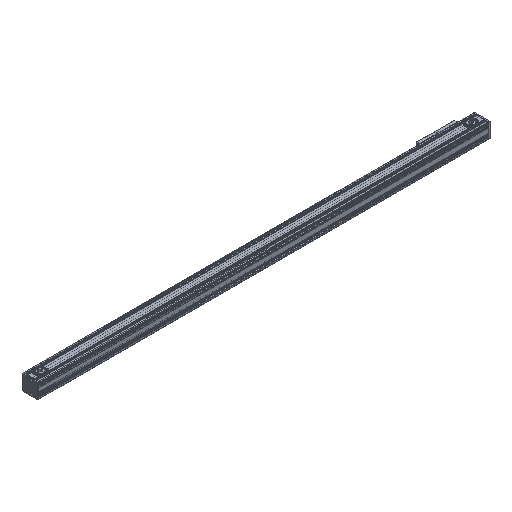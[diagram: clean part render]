
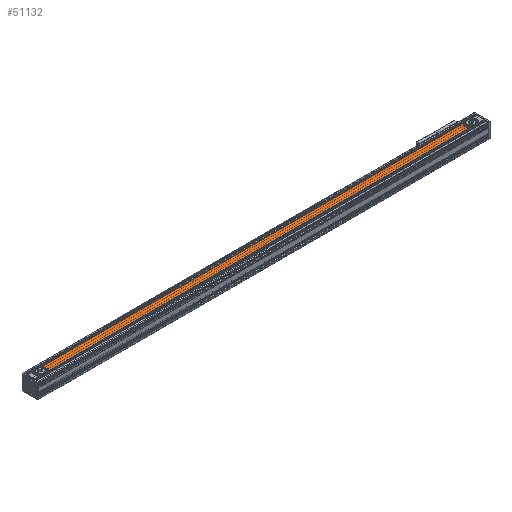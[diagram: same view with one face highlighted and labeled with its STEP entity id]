
A CAD part, isometric view. The second image highlights one B-rep face of the part: STEP entity #51132.
In plain terms, the highlighted planar face has unit normal (0, 0, 1).
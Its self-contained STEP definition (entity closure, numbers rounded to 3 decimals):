
#3859 = DIRECTION ( 'NONE',  ( 0., 0., -1. ) ) ;
#5148 = CARTESIAN_POINT ( 'NONE',  ( -114.672, 83.121, 83.366 ) ) ;
#15157 = ORIENTED_EDGE ( 'NONE', *, *, #76417, .F. ) ;
#16247 = CARTESIAN_POINT ( 'NONE',  ( -164.672, 62.821, 83.366 ) ) ;
#20505 = DIRECTION ( 'NONE',  ( 0., 0., 1. ) ) ;
#22477 = DIRECTION ( 'NONE',  ( 1., 0., 0. ) ) ;
#25986 = PLANE ( 'NONE',  #54222 ) ;
#29866 = EDGE_CURVE ( 'NONE', #112967, #106469, #99908, .T. ) ;
#33731 = EDGE_LOOP ( 'NONE', ( #129218, #15157, #85415, #81869 ) ) ;
#34601 = CARTESIAN_POINT ( 'NONE',  ( -164.672, 119.121, 83.366 ) ) ;
#44986 = EDGE_CURVE ( 'NONE', #106469, #56898, #115885, .T. ) ;
#45282 = LINE ( 'NONE', #77576, #89924 ) ;
#51132 = ADVANCED_FACE ( 'NONE', ( #95265 ), #25986, .T. ) ;
#54222 = AXIS2_PLACEMENT_3D ( 'NONE', #34601, #95957, #105210 ) ;
#56898 = VERTEX_POINT ( 'NONE', #98434 ) ;
#57128 = DIRECTION ( 'NONE',  ( -1., 0., 0. ) ) ;
#63738 = DIRECTION ( 'NONE',  ( -1., 0., 0. ) ) ;
#67179 = VECTOR ( 'NONE', #126424, 1000. ) ;
#76417 = EDGE_CURVE ( 'NONE', #92810, #56898, #115435, .T. ) ;
#77576 = CARTESIAN_POINT ( 'NONE',  ( -164.672, 103.421, 83.366 ) ) ;
#81869 = ORIENTED_EDGE ( 'NONE', *, *, #29866, .T. ) ;
#85415 = ORIENTED_EDGE ( 'NONE', *, *, #124969, .T. ) ;
#88427 = CARTESIAN_POINT ( 'NONE',  ( -91.244, 62.821, 83.366 ) ) ;
#89924 = VECTOR ( 'NONE', #57128, 1000. ) ;
#90296 = CARTESIAN_POINT ( 'NONE',  ( -91.244, 103.421, 83.366 ) ) ;
#92810 = VERTEX_POINT ( 'NONE', #103121 ) ;
#95265 = FACE_OUTER_BOUND ( 'NONE', #33731, .T. ) ;
#95957 = DIRECTION ( 'NONE',  ( 0., 0., 1. ) ) ;
#98434 = CARTESIAN_POINT ( 'NONE',  ( 2131.899, 62.821, 83.366 ) ) ;
#99908 = CIRCLE ( 'NONE', #125226, 31. ) ;
#103121 = CARTESIAN_POINT ( 'NONE',  ( 2131.899, 103.421, 83.366 ) ) ;
#105210 = DIRECTION ( 'NONE',  ( 1., 0., 0. ) ) ;
#106469 = VERTEX_POINT ( 'NONE', #88427 ) ;
#110323 = CARTESIAN_POINT ( 'NONE',  ( 2155.328, 83.121, 83.366 ) ) ;
#112967 = VERTEX_POINT ( 'NONE', #90296 ) ;
#115435 = CIRCLE ( 'NONE', #125972, 31. ) ;
#115885 = LINE ( 'NONE', #16247, #67179 ) ;
#124969 = EDGE_CURVE ( 'NONE', #92810, #112967, #45282, .T. ) ;
#125226 = AXIS2_PLACEMENT_3D ( 'NONE', #5148, #3859, #63738 ) ;
#125972 = AXIS2_PLACEMENT_3D ( 'NONE', #110323, #20505, #22477 ) ;
#126424 = DIRECTION ( 'NONE',  ( 1., 0., 0. ) ) ;
#129218 = ORIENTED_EDGE ( 'NONE', *, *, #44986, .T. ) ;
